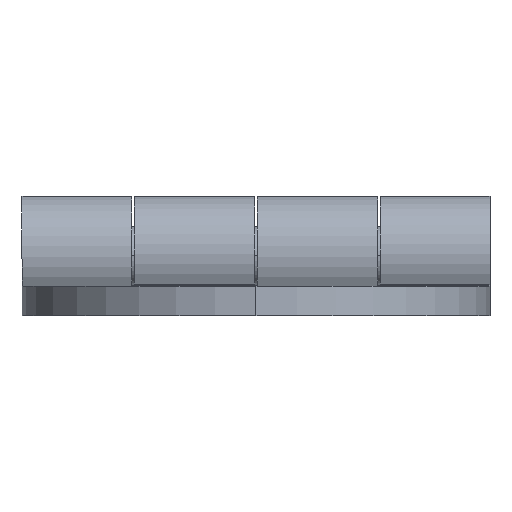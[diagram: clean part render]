
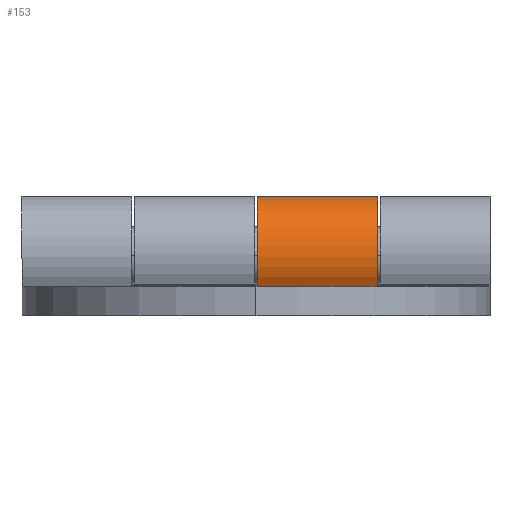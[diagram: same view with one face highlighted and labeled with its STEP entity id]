
A CAD part, left-side view. The second image highlights one B-rep face of the part: STEP entity #153.
In plain terms, the highlighted cylindrical face has radius 5.1 mm (diameter 10.2 mm), a partial arc.
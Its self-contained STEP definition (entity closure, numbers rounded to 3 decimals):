
#153=ADVANCED_FACE('',(#223),#1216,.T.);
#223=FACE_OUTER_BOUND('',#305,.T.);
#305=EDGE_LOOP('',(#593,#594,#595,#596));
#593=ORIENTED_EDGE('',*,*,#787,.T.);
#594=ORIENTED_EDGE('',*,*,#824,.F.);
#595=ORIENTED_EDGE('',*,*,#789,.F.);
#596=ORIENTED_EDGE('',*,*,#822,.F.);
#787=EDGE_CURVE('',#1137,#1136,#893,.T.);
#789=EDGE_CURVE('',#1138,#1135,#894,.T.);
#822=EDGE_CURVE('',#1137,#1138,#958,.T.);
#824=EDGE_CURVE('',#1135,#1136,#960,.T.);
#893=(
BOUNDED_CURVE()
B_SPLINE_CURVE(1,(#2353,#2354),.UNSPECIFIED.,.F.,.F.)
B_SPLINE_CURVE_WITH_KNOTS((2,2),(9.6,19.9),.UNSPECIFIED.)
CURVE()
GEOMETRIC_REPRESENTATION_ITEM()
RATIONAL_B_SPLINE_CURVE((1.,1.))
REPRESENTATION_ITEM('')
);
#894=(
BOUNDED_CURVE()
B_SPLINE_CURVE(1,(#2358,#2359),.UNSPECIFIED.,.F.,.F.)
B_SPLINE_CURVE_WITH_KNOTS((2,2),(9.6,19.9),.UNSPECIFIED.)
CURVE()
GEOMETRIC_REPRESENTATION_ITEM()
RATIONAL_B_SPLINE_CURVE((1.,1.))
REPRESENTATION_ITEM('')
);
#958=TRIMMED_CURVE($,#1034,(#2429),(#2430),.T.,.CARTESIAN.);
#960=TRIMMED_CURVE($,#1036,(#2435),(#2436),.T.,.CARTESIAN.);
#1034=CIRCLE('',#1412,5.1);
#1036=CIRCLE('',#1414,5.1);
#1135=VERTEX_POINT('',#2283);
#1136=VERTEX_POINT('',#2284);
#1137=VERTEX_POINT('',#2285);
#1138=VERTEX_POINT('',#2286);
#1216=CYLINDRICAL_SURFACE('',#1385,5.1);
#1385=AXIS2_PLACEMENT_3D('',#2129,#1555,$);
#1412=AXIS2_PLACEMENT_3D($,#2428,#1587,#1588);
#1414=AXIS2_PLACEMENT_3D($,#2434,#1591,#1592);
#1555=DIRECTION('',(0.,1.,0.));
#1587=DIRECTION('',(0.,-1.,0.));
#1588=DIRECTION('',(0.883,0.,-0.469));
#1591=DIRECTION('',(0.,1.,0.));
#1592=DIRECTION('',(0.,0.,-1.));
#2129=CARTESIAN_POINT('',(-3.276,30.038,5.208));
#2283=CARTESIAN_POINT('',(-3.276,29.938,0.108));
#2284=CARTESIAN_POINT('',(1.227,29.938,2.814));
#2285=CARTESIAN_POINT('',(1.227,19.638,2.814));
#2286=CARTESIAN_POINT('',(-3.276,19.638,0.108));
#2353=CARTESIAN_POINT('',(1.227,19.638,2.814));
#2354=CARTESIAN_POINT('',(1.227,29.938,2.814));
#2358=CARTESIAN_POINT('',(-3.276,19.638,0.108));
#2359=CARTESIAN_POINT('',(-3.276,29.938,0.108));
#2428=CARTESIAN_POINT('',(-3.276,19.638,5.208));
#2429=CARTESIAN_POINT('',(1.227,19.638,2.814));
#2430=CARTESIAN_POINT('',(-3.276,19.638,0.108));
#2434=CARTESIAN_POINT('',(-3.276,29.938,5.208));
#2435=CARTESIAN_POINT('',(-3.276,29.938,0.108));
#2436=CARTESIAN_POINT('',(1.227,29.938,2.814));
